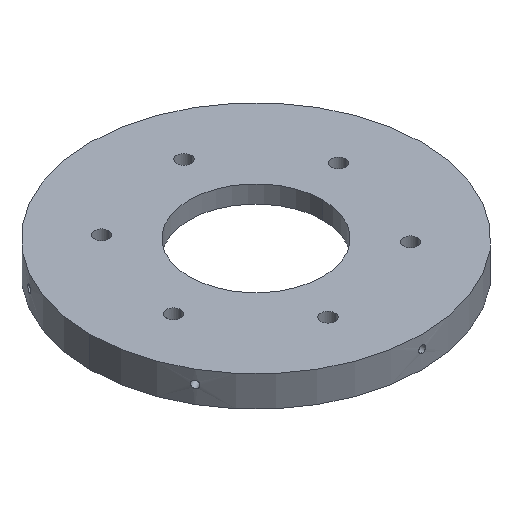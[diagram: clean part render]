
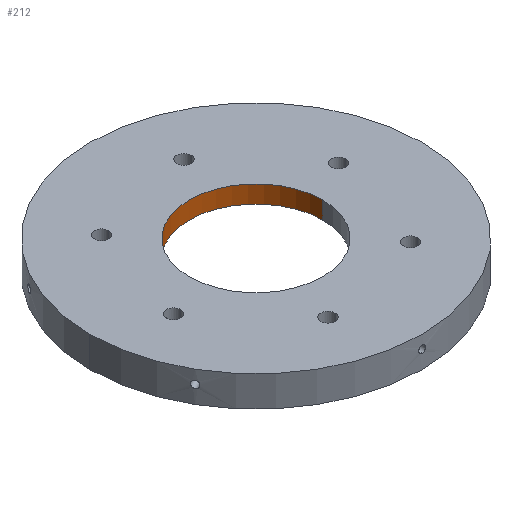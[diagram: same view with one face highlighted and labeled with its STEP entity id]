
A CAD part, isometric view. The second image highlights one B-rep face of the part: STEP entity #212.
In plain terms, the highlighted cylindrical face has radius 15.25 mm (diameter 30.5 mm), a partial arc.
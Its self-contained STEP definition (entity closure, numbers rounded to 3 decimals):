
#53 = AXIS2_PLACEMENT_3D ( 'NONE', #615, #1306, #733 ) ;
#93 = DIRECTION ( 'NONE',  ( 0., 0., 1. ) ) ;
#106 = VERTEX_POINT ( 'NONE', #762 ) ;
#127 = DIRECTION ( 'NONE',  ( 0., 0., 1. ) ) ;
#202 = DIRECTION ( 'NONE',  ( 0., 0., 1. ) ) ;
#211 = CARTESIAN_POINT ( 'NONE',  ( 15.25, 0., 0. ) ) ;
#212 = ADVANCED_FACE ( 'NONE', ( #884 ), #1340, .F. ) ;
#221 = AXIS2_PLACEMENT_3D ( 'NONE', #1241, #127, #453 ) ;
#300 = CIRCLE ( 'NONE', #53, 15.25 ) ;
#311 = VERTEX_POINT ( 'NONE', #1136 ) ;
#313 = CARTESIAN_POINT ( 'NONE',  ( 0., 0., 0. ) ) ;
#321 = AXIS2_PLACEMENT_3D ( 'NONE', #313, #202, #1111 ) ;
#363 = ORIENTED_EDGE ( 'NONE', *, *, #857, .T. ) ;
#453 = DIRECTION ( 'NONE',  ( -1., 0., 0. ) ) ;
#454 = VERTEX_POINT ( 'NONE', #724 ) ;
#590 = EDGE_LOOP ( 'NONE', ( #1016, #1476, #1297, #363 ) ) ;
#615 = CARTESIAN_POINT ( 'NONE',  ( 0., 0., 7. ) ) ;
#723 = VERTEX_POINT ( 'NONE', #1256 ) ;
#724 = CARTESIAN_POINT ( 'NONE',  ( -15.25, 0., 7. ) ) ;
#733 = DIRECTION ( 'NONE',  ( 1., 0., 0. ) ) ;
#762 = CARTESIAN_POINT ( 'NONE',  ( 15.25, 0., 7. ) ) ;
#779 = LINE ( 'NONE', #211, #1319 ) ;
#857 = EDGE_CURVE ( 'NONE', #106, #454, #300, .T. ) ;
#884 = FACE_OUTER_BOUND ( 'NONE', #590, .T. ) ;
#999 = LINE ( 'NONE', #1131, #1199 ) ;
#1008 = EDGE_CURVE ( 'NONE', #723, #454, #999, .T. ) ;
#1013 = EDGE_CURVE ( 'NONE', #311, #106, #779, .T. ) ;
#1016 = ORIENTED_EDGE ( 'NONE', *, *, #1008, .F. ) ;
#1111 = DIRECTION ( 'NONE',  ( 1., 0., 0. ) ) ;
#1131 = CARTESIAN_POINT ( 'NONE',  ( -15.25, 0., 0. ) ) ;
#1136 = CARTESIAN_POINT ( 'NONE',  ( 15.25, 0., 3. ) ) ;
#1178 = CIRCLE ( 'NONE', #221, 15.25 ) ;
#1199 = VECTOR ( 'NONE', #93, 1000. ) ;
#1241 = CARTESIAN_POINT ( 'NONE',  ( 0., 0., 3. ) ) ;
#1243 = DIRECTION ( 'NONE',  ( 0., 0., 1. ) ) ;
#1256 = CARTESIAN_POINT ( 'NONE',  ( -15.25, 0., 3. ) ) ;
#1292 = EDGE_CURVE ( 'NONE', #311, #723, #1178, .T. ) ;
#1297 = ORIENTED_EDGE ( 'NONE', *, *, #1013, .T. ) ;
#1306 = DIRECTION ( 'NONE',  ( 0., 0., 1. ) ) ;
#1319 = VECTOR ( 'NONE', #1243, 1000. ) ;
#1340 = CYLINDRICAL_SURFACE ( 'NONE', #321, 15.25 ) ;
#1476 = ORIENTED_EDGE ( 'NONE', *, *, #1292, .F. ) ;
